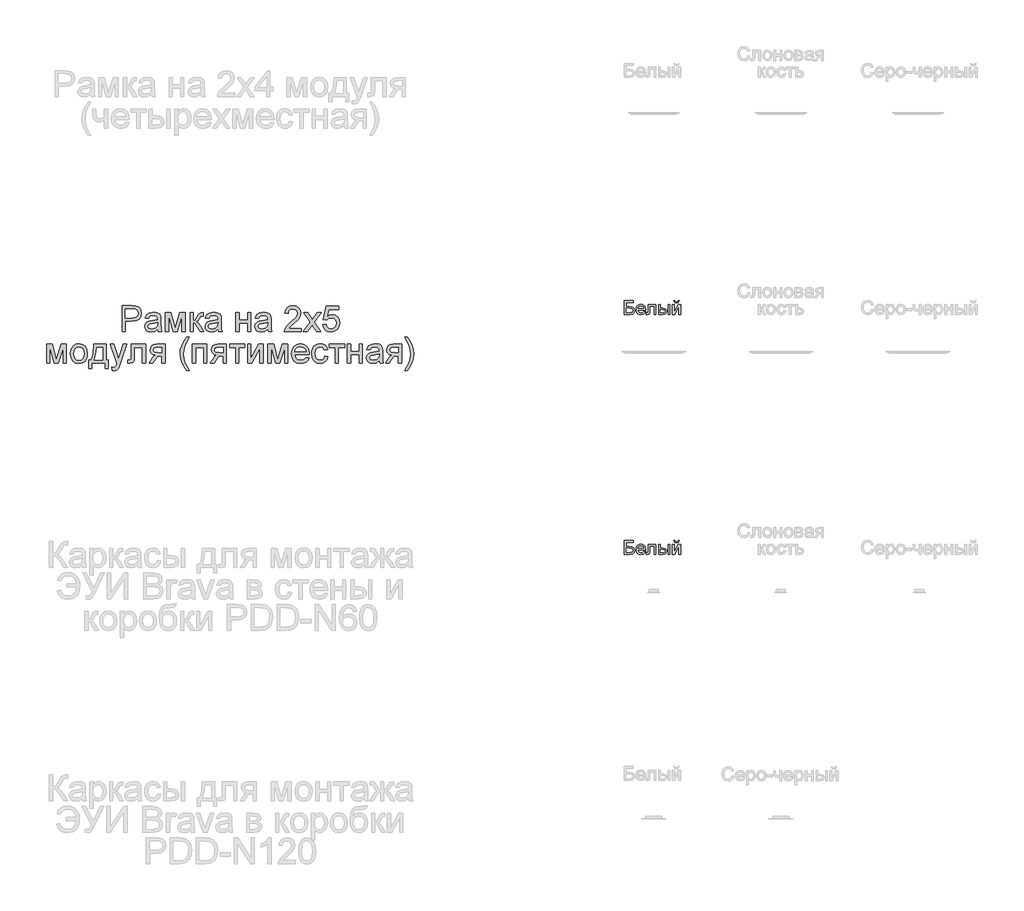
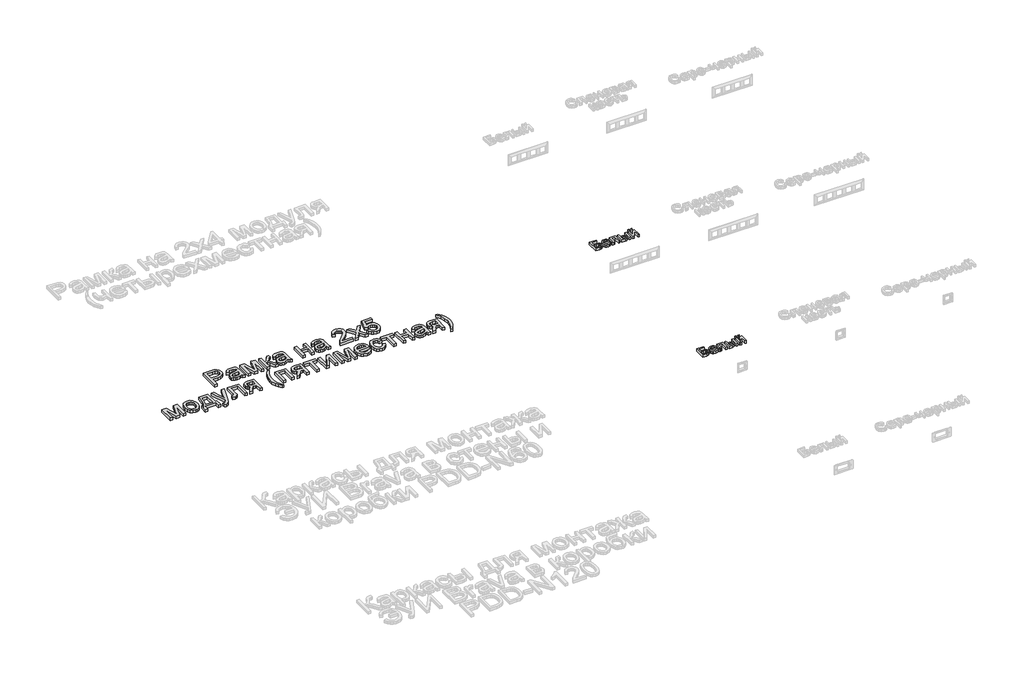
# One storey, part 17 of 47: 3 proxies.
"""IFC4 building model written with IfcOpenShell, lengths in millimetres."""

from ifc_helpers import new_model, si_unit, origin, origin_with_axes, place, context, project, spatial, polyline, outline, extrude, element, save

model = new_model("IFC4")

# Units and contexts
model_context = context("Model", 3, world=origin())
ifc_project = project(units=[si_unit("LENGTHUNIT", "METRE", prefix="MILLI")], contexts=[model_context])

# Site, building, storey
site = spatial("IfcSite", under=ifc_project)
building = spatial("IfcBuilding", under=site)
storey = spatial("IfcBuildingStorey", under=building, Name="Этаж 01", Elevation=0.0)

# Proxies
placement = place(None, origin())
element("IfcBuildingElementProxy", 1, Name="150 мм Arial", ObjectType="150 мм Arial", at=placement, inside=storey, context=model_context, shape_type="SweptSolid", body=[
    extrude(outline(polyline([(-3086.8258481, -2240.2273464), (-3086.8258481, -2089.5428812), (-3030.9813612, -2089.5428812), (-3008.4669831, -2090.977621), (-2990.1648539, -2098.0225612), (-2978.3006595, -2112.5906882), (-2973.8124992, -2133.1368976), (-2976.8429271, -2150.8964009), (-2985.9342109, -2165.6944542), (-3002.9349576, -2175.6824504), (-3029.6937742, -2179.0117824), (-3067.9902899, -2179.0117824), (-3067.9902899, -2240.2273464), (-3086.8258481, -2240.2273464)]), holes=[polyline([(-3067.9902899, -2160.1762243), (-3028.5901283, -2160.1762243), (-3011.8882857, -2158.4471789), (-3000.8518258, -2153.2600428), (-2994.6989995, -2144.9367126), (-2992.6480573, -2133.7990852), (-2997.4857056, -2118.2008886), (-3010.1960285, -2109.6660263), (-3029.0315867, -2108.3784394), (-3067.9902899, -2108.3784394), (-3067.9902899, -2160.1762243)])]), origin_with_axes(), (0.0, 0.0, 1.0), 20.0),
    extrude(outline(polyline([(-2879.6347084, -2226.1006778), (-2897.9000495, -2238.866183), (-2918.0783769, -2242.5817912), (-2933.8191278, -2240.3469081), (-2945.4304032, -2233.6422587), (-2952.5903066, -2223.4611245), (-2954.976941, -2210.7967868), (-2951.3716975, -2195.897566), (-2941.8987361, -2185.0818353), (-2928.7101666, -2178.9014178), (-2912.4129942, -2176.0687265), (-2879.745073, -2169.5940033), (-2879.6347084, -2165.4001486), (-2880.9314924, -2156.994045), (-2884.8218445, -2151.4942092), (-2893.5222537, -2147.410719), (-2905.6439655, -2146.0495557), (-2924.7002528, -2149.6731933), (-2933.7869381, -2162.530669), (-2952.6224963, -2160.1762243), (-2944.4739101, -2141.7821245), (-2928.0663731, -2131.0031821), (-2903.2159443, -2127.2139975), (-2880.3888665, -2130.5617237), (-2867.4946026, -2138.9678273), (-2861.7188552, -2151.7517266), (-2860.7991503, -2168.23284), (-2860.7991503, -2191.6669231), (-2859.8426571, -2224.3900265), (-2856.0902607, -2240.2273464), (-2874.9258189, -2240.2273464), (-2879.6347084, -2226.1006778)]), holes=[polyline([(-2879.6347084, -2188.4295615), (-2910.0217612, -2194.2053088), (-2926.2269631, -2197.2587294), (-2933.5662089, -2202.2251363), (-2936.1413829, -2209.4724116), (-2930.5311824, -2219.6627429), (-2914.0684632, -2223.746233), (-2895.0121758, -2219.2396786), (-2882.7249172, -2208.3319774), (-2879.745073, -2193.7638504), (-2879.6347084, -2188.4295615)])]), origin_with_axes(), (0.0, 0.0, 1.0), 20.0),
    extrude(outline(polyline([(-2834.9002578, -2129.5684423), (-2802.489854, -2129.5684423), (-2777.5106665, -2218.1544267), (-2750.5817045, -2129.5684423), (-2719.5324641, -2129.5684423), (-2719.5324641, -2240.2273464), (-2738.3680223, -2240.2273464), (-2738.3680223, -2151.1263272), (-2765.4441371, -2240.2273464), (-2790.1658072, -2240.2273464), (-2816.0646996, -2146.858896), (-2816.0646996, -2240.2273464), (-2834.9002578, -2240.2273464), (-2834.9002578, -2129.5684423)])), origin_with_axes(), (0.0, 0.0, 1.0), 20.0),
    extrude(outline(polyline([(-2691.2791269, -2129.5684423), (-2672.4435687, -2129.5684423), (-2672.4435687, -2176.6573377), (-2659.8252163, -2173.2728233), (-2649.4877322, -2153.5543484), (-2640.8976876, -2136.5398061), (-2633.3193185, -2131.0031821), (-2619.5421378, -2129.5684423), (-2615.9368943, -2129.5684423), (-2615.9368943, -2148.514365), (-2621.0136658, -2148.4040004), (-2630.2107157, -2150.3905632), (-2636.6854388, -2162.7881864), (-2644.282202, -2176.1974852), (-2654.9323858, -2182.7641788), (-2643.0497973, -2190.0942275), (-2631.3879381, -2205.5360743), (-2611.2280047, -2240.2273464), (-2632.6387368, -2240.2273464), (-2652.394, -2206.2718383), (-2662.3268139, -2191.9060464), (-2672.4435687, -2188.4295615), (-2672.4435687, -2240.2273464), (-2691.2791269, -2240.2273464), (-2691.2791269, -2129.5684423)])), origin_with_axes(), (0.0, 0.0, 1.0), 20.0),
    extrude(outline(polyline([(-2528.8224378, -2226.1006778), (-2547.0877789, -2238.866183), (-2567.2661063, -2242.5817912), (-2583.0068572, -2240.3469081), (-2594.6181326, -2233.6422587), (-2601.778036, -2223.4611245), (-2604.1646704, -2210.7967868), (-2600.5594269, -2195.897566), (-2591.0864655, -2185.0818353), (-2577.897896, -2178.9014178), (-2561.6007236, -2176.0687265), (-2528.9328024, -2169.5940033), (-2528.8224378, -2165.4001486), (-2530.1192218, -2156.994045), (-2534.0095739, -2151.4942092), (-2542.7099831, -2147.410719), (-2554.8316949, -2146.0495557), (-2573.8879822, -2149.6731933), (-2582.9746675, -2162.530669), (-2601.8102257, -2160.1762243), (-2593.6616395, -2141.7821245), (-2577.2541025, -2131.0031821), (-2552.4036737, -2127.2139975), (-2529.5765959, -2130.5617237), (-2516.682332, -2138.9678273), (-2510.9065846, -2151.7517266), (-2509.9868797, -2168.23284), (-2509.9868797, -2191.6669231), (-2509.0303865, -2224.3900265), (-2505.2779901, -2240.2273464), (-2524.1135483, -2240.2273464), (-2528.8224378, -2226.1006778)]), holes=[polyline([(-2528.8224378, -2188.4295615), (-2559.2094906, -2194.2053088), (-2575.4146925, -2197.2587294), (-2582.7539383, -2202.2251363), (-2585.3291123, -2209.4724116), (-2579.7189118, -2219.6627429), (-2563.2561926, -2223.746233), (-2544.1999052, -2219.2396786), (-2531.9126466, -2208.3319774), (-2528.9328024, -2193.7638504), (-2528.8224378, -2188.4295615)])]), origin_with_axes(), (0.0, 0.0, 1.0), 20.0),
    extrude(outline(polyline([(-2425.226868, -2129.5684423), (-2406.3913098, -2129.5684423), (-2406.3913098, -2171.9484481), (-2356.9479697, -2171.9484481), (-2356.9479697, -2129.5684423), (-2338.1124115, -2129.5684423), (-2338.1124115, -2240.2273464), (-2356.9479697, -2240.2273464), (-2356.9479697, -2190.7840063), (-2406.3913098, -2190.7840063), (-2406.3913098, -2240.2273464), (-2425.226868, -2240.2273464), (-2425.226868, -2129.5684423)])), origin_with_axes(), (0.0, 0.0, 1.0), 20.0),
    extrude(outline(polyline([(-2239.2257312, -2226.1006778), (-2257.4910723, -2238.866183), (-2277.6693997, -2242.5817912), (-2293.4101506, -2240.3469081), (-2305.021426, -2233.6422587), (-2312.1813294, -2223.4611245), (-2314.5679638, -2210.7967868), (-2310.9627203, -2195.897566), (-2301.4897589, -2185.0818353), (-2288.3011894, -2178.9014178), (-2272.004017, -2176.0687265), (-2239.3360958, -2169.5940033), (-2239.2257312, -2165.4001486), (-2240.5225152, -2156.994045), (-2244.4128673, -2151.4942092), (-2253.1132765, -2147.410719), (-2265.2349883, -2146.0495557), (-2284.2912756, -2149.6731933), (-2293.3779609, -2162.530669), (-2312.213519, -2160.1762243), (-2304.0649329, -2141.7821245), (-2287.6573959, -2131.0031821), (-2262.8069671, -2127.2139975), (-2239.9798893, -2130.5617237), (-2227.0856254, -2138.9678273), (-2221.309878, -2151.7517266), (-2220.3901731, -2168.23284), (-2220.3901731, -2191.6669231), (-2219.4336799, -2224.3900265), (-2215.6812835, -2240.2273464), (-2234.5168417, -2240.2273464), (-2239.2257312, -2226.1006778)]), holes=[polyline([(-2239.2257312, -2188.4295615), (-2269.612784, -2194.2053088), (-2285.8179859, -2197.2587294), (-2293.1572317, -2202.2251363), (-2295.7324057, -2209.4724116), (-2290.1222052, -2219.6627429), (-2273.659486, -2223.746233), (-2254.6031986, -2219.2396786), (-2242.31594, -2208.3319774), (-2239.3360958, -2193.7638504), (-2239.2257312, -2188.4295615)])]), origin_with_axes(), (0.0, 0.0, 1.0), 20.0),
    extrude(outline(polyline([(-2043.8068154, -2221.3917883), (-2043.8068154, -2240.2273464), (-2142.6934957, -2240.2273464), (-2140.6701447, -2227.241112), (-2129.2290146, -2207.2467256), (-2105.6477788, -2185.4129291), (-2073.1270104, -2154.032595), (-2067.0293663, -2143.2168643), (-2064.9968183, -2132.6954392), (-2066.9144032, -2123.2638646), (-2072.6671579, -2115.4233796), (-2081.5101213, -2110.1396744), (-2092.6983325, -2108.3784394), (-2104.4475637, -2110.0982877), (-2113.5756358, -2115.2578327), (-2119.4663462, -2123.4524041), (-2121.5034927, -2134.2773318), (-2140.3390509, -2131.922887), (-2135.7727156, -2113.7035312), (-2125.8996826, -2100.3954001), (-2111.2349866, -2092.2560109), (-2092.2936623, -2089.5428812), (-2073.2143824, -2092.5595136), (-2058.5772775, -2101.6094106), (-2049.2652645, -2115.129074), (-2046.1612601, -2131.555005), (-2049.5089863, -2149.4156759), (-2060.6374166, -2167.8833521), (-2087.621561, -2193.690274), (-2109.2898105, -2211.8084623), (-2117.7878846, -2221.3917883), (-2043.8068154, -2221.3917883)])), origin_with_axes(), (0.0, 0.0, 1.0), 20.0),
    extrude(outline(polyline([(-2032.0345915, -2240.2273464), (-1991.7883013, -2184.6035888), (-2029.6801468, -2129.5684423), (-2007.0186159, -2129.5684423), (-1988.7348807, -2156.0559459), (-1980.2000184, -2168.5639338), (-1972.8055903, -2158.3368143), (-1951.9834694, -2129.5684423), (-1929.3219385, -2129.5684423), (-1969.1267703, -2184.6035888), (-1930.7934664, -2240.2273464), (-1953.4549974, -2240.2273464), (-1976.5211985, -2206.7868731), (-1980.7518414, -2200.6800319), (-2009.3730606, -2240.2273464), (-2032.0345915, -2240.2273464)])), origin_with_axes(), (0.0, 0.0, 1.0), 20.0),
    extrude(outline(polyline([(-1919.0212426, -2200.2017853), (-1900.1856845, -2197.8473406), (-1896.7275937, -2209.1551134), (-1890.694329, -2217.2531158), (-1882.1134814, -2222.1229537), (-1871.0126422, -2223.746233), (-1857.511373, -2221.4883573), (-1847.3946181, -2214.7147301), (-1841.0762449, -2204.2071006), (-1838.9701205, -2190.7472181), (-1840.9428877, -2178.0736833), (-1846.8611893, -2168.3799928), (-1856.7710105, -2162.2271664), (-1870.7183366, -2160.1762243), (-1887.2546323, -2163.450374), (-1897.8312397, -2171.9484481), (-1916.6667978, -2169.5940033), (-1900.1856845, -2091.897326), (-1827.1978966, -2091.897326), (-1827.1978966, -2110.7328841), (-1884.9553699, -2110.7328841), (-1893.0119855, -2152.2299732), (-1879.5567016, -2144.0629929), (-1865.4576241, -2141.3406661), (-1847.8590692, -2144.7159834), (-1833.2495554, -2154.8419353), (-1823.4133106, -2170.274585), (-1820.1345623, -2189.5699957), (-1823.0868153, -2208.4055538), (-1831.9435743, -2224.5187852), (-1848.9029343, -2238.0660397), (-1871.0862186, -2242.5817912), (-1889.5860845, -2239.680122), (-1904.3243569, -2230.9751142), (-1914.4273162, -2217.4784435), (-1919.0212426, -2200.2017853)])), origin_with_axes(), (0.0, 0.0, 1.0), 20.0),
    extrude(outline(polyline([(-3525.9297975, -2312.530669), (-3493.5193938, -2312.530669), (-3468.5402063, -2401.1166535), (-3441.6112442, -2312.530669), (-3410.5620038, -2312.530669), (-3410.5620038, -2423.1895732), (-3429.397562, -2423.1895732), (-3429.397562, -2334.088554), (-3456.4736768, -2423.1895732), (-3481.1953469, -2423.1895732), (-3507.0942394, -2329.8211228), (-3507.0942394, -2423.1895732), (-3525.9297975, -2423.1895732), (-3525.9297975, -2312.530669)])), origin_with_axes(), (0.0, 0.0, 1.0), 20.0),
    extrude(outline(polyline([(-3387.0175562, -2367.8601211), (-3382.9432631, -2341.1794794), (-3370.7203838, -2322.4266947), (-3355.6188279, -2313.2388419), (-3337.5374278, -2310.1762243), (-3317.749975, -2313.905628), (-3301.9448448, -2325.0938392), (-3291.5843681, -2342.857941), (-3288.1308759, -2366.3150167), (-3289.6575861, -2385.3437129), (-3294.237717, -2399.8290665), (-3301.7379112, -2410.6769868), (-3312.0248114, -2418.7933833), (-3324.2430922, -2423.8563593), (-3337.5374278, -2425.544018), (-3357.5640039, -2421.8284098), (-3373.35074, -2410.6815854), (-3383.6008521, -2392.545003), (-3387.0175562, -2367.8601211)]), holes=[polyline([(-3368.181998, -2367.8233329), (-3366.0022972, -2384.8700649), (-3359.4631947, -2397.0147692), (-3349.6223513, -2404.2850372), (-3337.5374278, -2406.7084598), (-3325.5076866, -2404.2712416), (-3315.6852373, -2396.9595869), (-3309.1461348, -2384.6539342), (-3306.966434, -2367.2347217), (-3309.1599304, -2350.6846305), (-3315.7404196, -2338.705473), (-3325.5766644, -2331.4352051), (-3337.5374278, -2329.0117824), (-3349.6223513, -2331.426008), (-3359.4631947, -2338.6686848), (-3366.0022972, -2350.785798), (-3368.181998, -2367.8233329)])]), origin_with_axes(), (0.0, 0.0, 1.0), 20.0),
    extrude(outline(polyline([(-3250.4597595, -2312.530669), (-3179.8264165, -2312.530669), (-3179.8264165, -2404.354015), (-3165.6997479, -2404.354015), (-3165.6997479, -2453.7973552), (-3184.535306, -2453.7973552), (-3184.535306, -2423.1895732), (-3262.2319834, -2423.1895732), (-3262.2319834, -2453.7973552), (-3281.0675415, -2453.7973552), (-3281.0675415, -2404.354015), (-3269.2953177, -2404.354015), (-3260.7374628, -2388.8891757), (-3254.7455848, -2368.4303382), (-3250.4597595, -2312.530669)]), holes=[polyline([(-3233.9786462, -2331.3662272), (-3238.3932301, -2374.2796619), (-3248.1053148, -2404.354015), (-3198.6619746, -2404.354015), (-3198.6619746, -2331.3662272), (-3233.9786462, -2331.3662272)])]), origin_with_axes(), (0.0, 0.0, 1.0), 20.0),
    extrude(outline(polyline([(-3144.5097449, -2465.569579), (-3146.8641897, -2447.4329967), (-3137.2992578, -2449.0884657), (-3128.3597253, -2447.0099324), (-3122.8782836, -2441.215791), (-3117.7279357, -2427.3466397), (-3116.2564077, -2422.784903), (-3156.2819688, -2312.530669), (-3136.416341, -2312.530669), (-3115.1895499, -2373.9669622), (-3107.7951218, -2398.5414795), (-3100.4006937, -2376.8364418), (-3078.5852914, -2312.530669), (-3058.8668165, -2312.530669), (-3097.3840614, -2425.8383236), (-3107.3904516, -2450.4128408), (-3118.3165469, -2463.6933809), (-3132.9950385, -2467.9240238), (-3144.5097449, -2465.569579)])), origin_with_axes(), (0.0, 0.0, 1.0), 20.0),
    extrude(outline(polyline([(-3033.8508408, -2312.530669), (-2949.0908291, -2312.530669), (-2949.0908291, -2423.0792086), (-2967.9263873, -2423.0792086), (-2967.9263873, -2331.3662272), (-3015.0152826, -2331.3662272), (-3015.0152826, -2384.1572935), (-3016.2844755, -2408.5110816), (-3023.2558393, -2418.7933833), (-3039.7369527, -2423.1895732), (-3055.0408437, -2422.23308), (-3055.0408437, -2404.354015), (-3046.616346, -2404.354015), (-3038.0998778, -2403.1951868), (-3034.6969694, -2399.5163668), (-3033.8508408, -2383.0904357), (-3033.8508408, -2312.530669)])), origin_with_axes(), (0.0, 0.0, 1.0), 20.0),
    extrude(outline(polyline([(-2836.0774802, -2312.530669), (-2836.0774802, -2423.1895732), (-2854.9130383, -2423.1895732), (-2854.9130383, -2380.8095673), (-2865.176946, -2380.8095673), (-2879.1564618, -2383.2008003), (-2892.289849, -2399.2772435), (-2907.2994344, -2423.1895732), (-2929.0780486, -2423.1895732), (-2910.168914, -2392.9496732), (-2901.8179927, -2382.0971543), (-2894.129259, -2377.2779002), (-2907.0051289, -2373.3323658), (-2916.0550259, -2365.8367701), (-2921.407709, -2355.8671681), (-2923.1919366, -2344.4996144), (-2920.7547184, -2331.6053505), (-2913.4430638, -2321.3966251), (-2901.5144901, -2314.7471581), (-2885.2265147, -2312.530669), (-2836.0774802, -2312.530669)]), holes=[polyline([(-2854.9130383, -2331.3662272), (-2879.745073, -2331.3662272), (-2892.5703591, -2332.4560776), (-2899.849824, -2335.7256288), (-2904.3563785, -2345.9343542), (-2902.696311, -2353.1126516), (-2897.7161085, -2358.0928541), (-2874.1900549, -2361.9740092), (-2854.9130383, -2361.9740092), (-2854.9130383, -2331.3662272)])]), origin_with_axes(), (0.0, 0.0, 1.0), 20.0),
    extrude(outline(polyline([(-2711.2919074, -2465.569579), (-2725.8876256, -2445.087749), (-2738.0369285, -2421.3869514), (-2746.2314999, -2395.6168177), (-2748.9630237, -2368.9269789), (-2746.9212786, -2345.520487), (-2740.7960434, -2323.1256705), (-2728.6375435, -2297.7602069), (-2711.2919074, -2272.505108), (-2697.1652388, -2272.505108), (-2714.7867864, -2302.3403378), (-2725.3817878, -2331.2558626), (-2730.1274656, -2369.0373435), (-2728.0673264, -2393.184198), (-2721.8869089, -2417.3218554), (-2711.586213, -2441.4503157), (-2697.1652388, -2465.569579), (-2711.2919074, -2465.569579)])), origin_with_axes(), (0.0, 0.0, 1.0), 20.0),
    extrude(outline(polyline([(-2678.3296806, -2312.530669), (-2593.569669, -2312.530669), (-2593.569669, -2423.1895732), (-2612.4052271, -2423.1895732), (-2612.4052271, -2331.3662272), (-2659.4941225, -2331.3662272), (-2659.4941225, -2423.1895732), (-2678.3296806, -2423.1895732), (-2678.3296806, -2312.530669)])), origin_with_axes(), (0.0, 0.0, 1.0), 20.0),
    extrude(outline(polyline([(-2480.55632, -2312.530669), (-2480.55632, -2423.1895732), (-2499.3918782, -2423.1895732), (-2499.3918782, -2380.8095673), (-2509.6557859, -2380.8095673), (-2523.6353017, -2383.2008003), (-2536.7686889, -2399.2772435), (-2551.7782743, -2423.1895732), (-2573.5568884, -2423.1895732), (-2554.6477539, -2392.9496732), (-2546.2968326, -2382.0971543), (-2538.6080989, -2377.2779002), (-2551.4839687, -2373.3323658), (-2560.5338658, -2365.8367701), (-2565.8865488, -2355.8671681), (-2567.6707765, -2344.4996144), (-2565.2335583, -2331.6053505), (-2557.9219036, -2321.3966251), (-2545.9933299, -2314.7471581), (-2529.7053546, -2312.530669), (-2480.55632, -2312.530669)]), holes=[polyline([(-2499.3918782, -2331.3662272), (-2524.2239129, -2331.3662272), (-2537.0491989, -2332.4560776), (-2544.3286639, -2335.7256288), (-2548.8352183, -2345.9343542), (-2547.1751508, -2353.1126516), (-2542.1949483, -2358.0928541), (-2518.6688947, -2361.9740092), (-2499.3918782, -2361.9740092), (-2499.3918782, -2331.3662272)])]), origin_with_axes(), (0.0, 0.0, 1.0), 20.0),
    extrude(outline(polyline([(-2461.7207619, -2312.530669), (-2372.2518607, -2312.530669), (-2372.2518607, -2331.3662272), (-2407.5685322, -2331.3662272), (-2407.5685322, -2423.1895732), (-2426.4040904, -2423.1895732), (-2426.4040904, -2331.3662272), (-2461.7207619, -2331.3662272), (-2461.7207619, -2312.530669)])), origin_with_axes(), (0.0, 0.0, 1.0), 20.0),
    extrude(outline(polyline([(-2355.7707473, -2312.530669), (-2336.9351891, -2312.530669), (-2336.9351891, -2396.9227987), (-2290.6556341, -2312.530669), (-2266.3018461, -2312.530669), (-2266.3018461, -2423.1895732), (-2285.1374042, -2423.1895732), (-2285.1374042, -2339.3124783), (-2331.1226536, -2423.1895732), (-2355.7707473, -2423.1895732), (-2355.7707473, -2312.530669)])), origin_with_axes(), (0.0, 0.0, 1.0), 20.0),
    extrude(outline(polyline([(-2238.0485088, -2312.530669), (-2205.638105, -2312.530669), (-2180.6589176, -2401.1166535), (-2153.7299555, -2312.530669), (-2122.6807151, -2312.530669), (-2122.6807151, -2423.1895732), (-2141.5162733, -2423.1895732), (-2141.5162733, -2334.088554), (-2168.5923881, -2423.1895732), (-2193.3140582, -2423.1895732), (-2219.2129507, -2329.8211228), (-2219.2129507, -2423.1895732), (-2238.0485088, -2423.1895732), (-2238.0485088, -2312.530669)])), origin_with_axes(), (0.0, 0.0, 1.0), 20.0),
    extrude(outline(polyline([(-2016.9514297, -2390.2273464), (-1998.4837536, -2392.5817912), (-2005.1378192, -2406.4969277), (-2015.7558132, -2416.8987911), (-2030.0986125, -2423.3827112), (-2047.9270937, -2425.544018), (-2070.0276046, -2421.8146142), (-2087.0329498, -2410.6264031), (-2097.8762716, -2392.7059514), (-2101.4907122, -2368.7798261), (-2097.8394834, -2344.048959), (-2086.885797, -2325.5536917), (-2070.110378, -2314.0205911), (-2048.9939515, -2310.1762243), (-2028.535114, -2314.0113941), (-2012.1873579, -2325.5169035), (-2001.4681962, -2343.9753826), (-1997.8951424, -2368.6694615), (-1998.005507, -2373.746233), (-2082.6551541, -2373.746233), (-2079.3947999, -2387.8453105), (-2071.8210293, -2398.2103857), (-2060.8903355, -2404.5839413), (-2047.5592117, -2406.7084598), (-2029.0915356, -2402.7721225), (-2016.9514297, -2390.2273464)]), holes=[polyline([(-2082.6551541, -2354.9106749), (-2016.7307005, -2354.9106749), (-2019.2782833, -2344.9594669), (-2024.2722814, -2337.8409503), (-2035.253559, -2331.2190744), (-2049.0675279, -2329.0117824), (-2061.7640553, -2330.7730175), (-2072.2624877, -2336.0567226), (-2079.5603468, -2344.2926808), (-2082.6551541, -2354.9106749)])]), origin_with_axes(), (0.0, 0.0, 1.0), 20.0),
    extrude(outline(polyline([(-1908.4262411, -2383.1640121), (-1889.590683, -2385.5184569), (-1894.8421985, -2402.2708832), (-1904.710633, -2414.9306224), (-1918.2670845, -2422.8906691), (-1934.582651, -2425.544018), (-1954.6184242, -2421.8422054), (-1970.2855986, -2410.7367677), (-1980.397755, -2392.7151484), (-1983.7684738, -2368.2647913), (-1982.3291354, -2351.5031679), (-1978.0111205, -2336.9764276), (-1970.7454511, -2325.2455905), (-1960.4631494, -2316.8716766), (-1948.1620951, -2311.8500874), (-1934.8401684, -2310.1762243), (-1918.9246736, -2312.4754867), (-1906.2005551, -2319.3732742), (-1897.0724831, -2330.5017045), (-1891.9451278, -2345.4928958), (-1910.7806859, -2347.8473406), (-1919.5178833, -2333.7390661), (-1934.6930156, -2329.0117824), (-1946.8653111, -2331.338636), (-1956.526812, -2338.3191969), (-1962.8313897, -2350.330544), (-1964.9329156, -2367.7497565), (-1962.877375, -2385.4034938), (-1956.710753, -2397.4562276), (-1947.2239961, -2404.3954018), (-1935.2080504, -2406.7084598), (-1925.454579, -2405.264523), (-1917.4577441, -2400.9327125), (-1911.6406101, -2393.6026637), (-1908.4262411, -2383.1640121)])), origin_with_axes(), (0.0, 0.0, 1.0), 20.0),
    extrude(outline(polyline([(-1882.5273487, -2312.530669), (-1793.0584475, -2312.530669), (-1793.0584475, -2331.3662272), (-1828.375119, -2331.3662272), (-1828.375119, -2423.1895732), (-1847.2106771, -2423.1895732), (-1847.2106771, -2331.3662272), (-1882.5273487, -2331.3662272), (-1882.5273487, -2312.530669)])), origin_with_axes(), (0.0, 0.0, 1.0), 20.0),
    extrude(outline(polyline([(-1776.5773341, -2312.530669), (-1757.7417759, -2312.530669), (-1757.7417759, -2354.9106749), (-1708.2984358, -2354.9106749), (-1708.2984358, -2312.530669), (-1689.4628776, -2312.530669), (-1689.4628776, -2423.1895732), (-1708.2984358, -2423.1895732), (-1708.2984358, -2373.746233), (-1757.7417759, -2373.746233), (-1757.7417759, -2423.1895732), (-1776.5773341, -2423.1895732), (-1776.5773341, -2312.530669)])), origin_with_axes(), (0.0, 0.0, 1.0), 20.0),
    extrude(outline(polyline([(-1590.5761973, -2409.0629046), (-1608.8415384, -2421.8284098), (-1629.0198658, -2425.544018), (-1644.7606167, -2423.3091348), (-1656.3718921, -2416.6044855), (-1663.5317955, -2406.4233513), (-1665.9184299, -2393.7590136), (-1662.3131864, -2378.8597928), (-1652.840225, -2368.0440621), (-1639.6516555, -2361.8636446), (-1623.3544831, -2359.0309532), (-1590.6865619, -2352.5562301), (-1590.5761973, -2348.3623754), (-1591.8729813, -2339.9562718), (-1595.7633334, -2334.456436), (-1604.4637426, -2330.3729458), (-1616.5854544, -2329.0117824), (-1635.6417417, -2332.6354201), (-1644.728427, -2345.4928958), (-1663.5639852, -2343.138451), (-1655.415399, -2324.7443513), (-1639.007862, -2313.9654088), (-1614.1574332, -2310.1762243), (-1591.3303554, -2313.5239504), (-1578.4360915, -2321.930054), (-1572.6603441, -2334.7139534), (-1571.7406392, -2351.1950667), (-1571.7406392, -2374.6291498), (-1570.784146, -2407.3522533), (-1567.0317496, -2423.1895732), (-1585.8673078, -2423.1895732), (-1590.5761973, -2409.0629046)]), holes=[polyline([(-1590.5761973, -2371.3917883), (-1620.9632501, -2377.1675356), (-1637.168452, -2380.2209562), (-1644.5076978, -2385.1873631), (-1647.0828718, -2392.4346384), (-1641.4726713, -2402.6249697), (-1625.0099521, -2406.7084598), (-1605.9536647, -2402.2019054), (-1593.6664061, -2391.2942042), (-1590.6865619, -2376.7260772), (-1590.5761973, -2371.3917883)])]), origin_with_axes(), (0.0, 0.0, 1.0), 20.0),
    extrude(outline(polyline([(-1461.081735, -2312.530669), (-1461.081735, -2423.1895732), (-1479.9172932, -2423.1895732), (-1479.9172932, -2380.8095673), (-1490.1812008, -2380.8095673), (-1504.1607166, -2383.2008003), (-1517.2941039, -2399.2772435), (-1532.3036893, -2423.1895732), (-1554.0823034, -2423.1895732), (-1535.1731688, -2392.9496732), (-1526.8222475, -2382.0971543), (-1519.1335138, -2377.2779002), (-1532.0093837, -2373.3323658), (-1541.0592808, -2365.8367701), (-1546.4119638, -2355.8671681), (-1548.1961915, -2344.4996144), (-1545.7589732, -2331.6053505), (-1538.4473186, -2321.3966251), (-1526.5187449, -2314.7471581), (-1510.2307696, -2312.530669), (-1461.081735, -2312.530669)]), holes=[polyline([(-1479.9172932, -2331.3662272), (-1504.7493278, -2331.3662272), (-1517.5746139, -2332.4560776), (-1524.8540789, -2335.7256288), (-1529.3606333, -2345.9343542), (-1527.7005658, -2353.1126516), (-1522.7203633, -2358.0928541), (-1499.1943097, -2361.9740092), (-1479.9172932, -2361.9740092), (-1479.9172932, -2331.3662272)])]), origin_with_axes(), (0.0, 0.0, 1.0), 20.0),
    extrude(outline(polyline([(-1428.1195082, -2465.569579), (-1442.2461769, -2465.569579), (-1427.8252026, -2441.4503157), (-1417.5245068, -2417.3218554), (-1411.3440893, -2393.184198), (-1409.2839501, -2369.0373435), (-1414.0296278, -2331.5869564), (-1424.5142647, -2302.6346434), (-1442.2461769, -2272.505108), (-1428.1195082, -2272.505108), (-1410.7738722, -2297.7602069), (-1398.6153722, -2323.1256705), (-1392.490137, -2345.520487), (-1390.4483919, -2368.9269789), (-1393.1937113, -2395.6168177), (-1401.4296695, -2421.3869514), (-1413.592768, -2445.087749), (-1428.1195082, -2465.569579)])), origin_with_axes(), (0.0, 0.0, 1.0), 20.0),
])
element("IfcBuildingElementProxy", 2, Name="80 мм Arial", ObjectType="80 мм Arial", at=placement, inside=storey, context=model_context, shape_type="SweptSolid", body=[
    extrude(outline(polyline([(-164.9738634, -2059.7372695), (-114.7457083, -2059.7372695), (-114.7457083, -2069.7829005), (-154.9282324, -2069.7829005), (-154.9282324, -2093.6412742), (-136.1122946, -2093.6412742), (-119.5330794, -2095.681793), (-109.6640317, -2103.3925996), (-105.9557812, -2116.5774903), (-108.5947214, -2128.025978), (-116.4723012, -2136.7276135), (-134.3072203, -2140.1023176), (-164.9738634, -2140.1023176), (-164.9738634, -2059.7372695)]), holes=[polyline([(-154.9282324, -2130.0566866), (-133.4046831, -2130.0566866), (-120.357135, -2126.7408436), (-116.0014122, -2116.7933144), (-118.4931996, -2108.9255448), (-125.4290015, -2104.726785), (-140.5661193, -2103.6869052), (-154.9282324, -2103.6869052), (-154.9282324, -2130.0566866)])]), origin_with_axes(), (0.0, 0.0, 1.0), 20.0),
    extrude(outline(polyline([(-52.0782367, -2122.5224633), (-42.2288094, -2123.7781672), (-51.4405746, -2136.7472338), (-68.5985909, -2141.3580215), (-80.38553, -2139.3690062), (-89.4550474, -2133.4019602), (-95.2381524, -2123.844386), (-97.1658541, -2111.0837858), (-95.218532, -2097.89399), (-89.3765659, -2088.0298475), (-80.4296758, -2081.8788605), (-69.1675817, -2079.8285315), (-58.2562017, -2081.8739554), (-49.5373984, -2088.0102271), (-43.8205122, -2097.8547493), (-41.9148835, -2111.0249247), (-41.9737446, -2113.7325362), (-87.120223, -2113.7325362), (-81.3420232, -2126.7800843), (-68.4023871, -2131.3123905), (-58.5529598, -2129.2130106), (-52.0782367, -2122.5224633)]), holes=[polyline([(-87.120223, -2103.6869052), (-51.9605145, -2103.6869052), (-55.982691, -2094.5830521), (-69.2068224, -2089.8741625), (-81.5774676, -2093.631464), (-87.120223, -2103.6869052)])]), origin_with_axes(), (0.0, 0.0, 1.0), 20.0),
    extrude(outline(polyline([(-26.8464369, -2081.0842354), (18.3589026, -2081.0842354), (18.3589026, -2140.0434565), (8.3132716, -2140.0434565), (8.3132716, -2091.1298664), (-16.8008059, -2091.1298664), (-16.8008059, -2119.2851018), (-17.4777088, -2132.2737888), (-21.1957695, -2137.757683), (-29.9856966, -2140.1023176), (-38.1477718, -2139.5921879), (-38.1477718, -2130.0566866), (-33.6547064, -2130.0566866), (-29.11259, -2129.4386449), (-27.2977055, -2127.4766075), (-26.8464369, -2118.716111), (-26.8464369, -2081.0842354)])), origin_with_axes(), (0.0, 0.0, 1.0), 20.0),
    extrude(outline(polyline([(33.4273491, -2081.0842354), (43.4729802, -2081.0842354), (43.4729802, -2102.4312013), (55.8926763, -2102.4312013), (74.5810817, -2107.463827), (79.5033428, -2113.4504933), (81.1440965, -2121.345241), (75.6405818, -2134.598803), (68.4914084, -2138.726439), (58.0509174, -2140.1023176), (33.4273491, -2140.1023176), (33.4273491, -2081.0842354)]), holes=[polyline([(43.4729802, -2130.0566866), (53.7932964, -2130.0566866), (67.1155297, -2127.9474965), (71.0984654, -2121.3648613), (68.1455993, -2115.1844438), (55.1078614, -2112.4768323), (43.4729802, -2112.4768323), (43.4729802, -2130.0566866)])]), origin_with_axes(), (0.0, 0.0, 1.0), 20.0),
    extrude(outline(polyline([(88.6783197, -2081.0842354), (98.7239507, -2081.0842354), (98.7239507, -2140.1023176), (88.6783197, -2140.1023176), (88.6783197, -2081.0842354)])), origin_with_axes(), (0.0, 0.0, 1.0), 20.0),
    extrude(outline(polyline([(113.7923973, -2081.0842354), (123.8380283, -2081.0842354), (123.8380283, -2126.0933712), (148.5204576, -2081.0842354), (161.5091446, -2081.0842354), (161.5091446, -2140.1023176), (151.4635136, -2140.1023176), (151.4635136, -2095.367867), (126.9380472, -2140.1023176), (113.7923973, -2140.1023176), (113.7923973, -2081.0842354)])), origin_with_axes(), (0.0, 0.0, 1.0), 20.0),
    extrude(outline(polyline([(146.4406981, -2059.7372695), (153.9749213, -2059.7372695), (149.0992586, -2070.911072), (138.2786229, -2074.805716), (126.5652601, -2070.9405025), (121.3266205, -2059.7372695), (128.8608438, -2059.7372695), (131.6861775, -2065.3977471), (137.3760857, -2067.2714928), (143.6153643, -2065.4566083), (146.4406981, -2059.7372695)])), origin_with_axes(), (0.0, 0.0, 1.0), 20.0),
])
element("IfcBuildingElementProxy", 3, Name="80 мм Arial", ObjectType="80 мм Arial", at=placement, inside=storey, context=model_context, shape_type="SweptSolid", body=[
    extrude(outline(polyline([(-164.9738634, -3455.5517715), (-114.7457083, -3455.5517715), (-114.7457083, -3465.5974025), (-154.9282324, -3465.5974025), (-154.9282324, -3489.4557762), (-136.1122946, -3489.4557762), (-119.5330794, -3491.496295), (-109.6640317, -3499.2071016), (-105.9557812, -3512.3919923), (-108.5947214, -3523.84048), (-116.4723012, -3532.5421154), (-134.3072203, -3535.9168196), (-164.9738634, -3535.9168196), (-164.9738634, -3455.5517715)]), holes=[polyline([(-154.9282324, -3525.8711886), (-133.4046831, -3525.8711886), (-120.357135, -3522.5553456), (-116.0014122, -3512.6078164), (-118.4931996, -3504.7400468), (-125.4290015, -3500.541287), (-140.5661193, -3499.5014072), (-154.9282324, -3499.5014072), (-154.9282324, -3525.8711886)])]), origin_with_axes(), (0.0, 0.0, 1.0), 20.0),
    extrude(outline(polyline([(-52.0782367, -3518.3369653), (-42.2288094, -3519.5926692), (-51.4405746, -3532.5617358), (-68.5985909, -3537.1725235), (-80.38553, -3535.1835082), (-89.4550474, -3529.2164622), (-95.2381524, -3519.658888), (-97.1658541, -3506.8982878), (-95.218532, -3493.708492), (-89.3765659, -3483.8443495), (-80.4296758, -3477.6933625), (-69.1675817, -3475.6430335), (-58.2562017, -3477.6884574), (-49.5373984, -3483.8247291), (-43.8205122, -3493.6692513), (-41.9148835, -3506.8394267), (-41.9737446, -3509.5470382), (-87.120223, -3509.5470382), (-81.3420232, -3522.5945863), (-68.4023871, -3527.1268925), (-58.5529598, -3525.0275126), (-52.0782367, -3518.3369653)]), holes=[polyline([(-87.120223, -3499.5014072), (-51.9605145, -3499.5014072), (-55.982691, -3490.3975541), (-69.2068224, -3485.6886645), (-81.5774676, -3489.445966), (-87.120223, -3499.5014072)])]), origin_with_axes(), (0.0, 0.0, 1.0), 20.0),
    extrude(outline(polyline([(-26.8464369, -3476.8987374), (18.3589026, -3476.8987374), (18.3589026, -3535.8579585), (8.3132716, -3535.8579585), (8.3132716, -3486.9443684), (-16.8008059, -3486.9443684), (-16.8008059, -3515.0996038), (-17.4777088, -3528.0882908), (-21.1957695, -3533.572185), (-29.9856966, -3535.9168196), (-38.1477718, -3535.4066899), (-38.1477718, -3525.8711886), (-33.6547064, -3525.8711886), (-29.11259, -3525.2531468), (-27.2977055, -3523.2911095), (-26.8464369, -3514.530613), (-26.8464369, -3476.8987374)])), origin_with_axes(), (0.0, 0.0, 1.0), 20.0),
    extrude(outline(polyline([(33.4273491, -3476.8987374), (43.4729802, -3476.8987374), (43.4729802, -3498.2457033), (55.8926763, -3498.2457033), (74.5810817, -3503.278329), (79.5033428, -3509.2649953), (81.1440965, -3517.159743), (75.6405818, -3530.413305), (68.4914084, -3534.540941), (58.0509174, -3535.9168196), (33.4273491, -3535.9168196), (33.4273491, -3476.8987374)]), holes=[polyline([(43.4729802, -3525.8711886), (53.7932964, -3525.8711886), (67.1155297, -3523.7619985), (71.0984654, -3517.1793633), (68.1455993, -3510.9989458), (55.1078614, -3508.2913343), (43.4729802, -3508.2913343), (43.4729802, -3525.8711886)])]), origin_with_axes(), (0.0, 0.0, 1.0), 20.0),
    extrude(outline(polyline([(88.6783197, -3476.8987374), (98.7239507, -3476.8987374), (98.7239507, -3535.9168196), (88.6783197, -3535.9168196), (88.6783197, -3476.8987374)])), origin_with_axes(), (0.0, 0.0, 1.0), 20.0),
    extrude(outline(polyline([(113.7923973, -3476.8987374), (123.8380283, -3476.8987374), (123.8380283, -3521.9078732), (148.5204576, -3476.8987374), (161.5091446, -3476.8987374), (161.5091446, -3535.9168196), (151.4635136, -3535.9168196), (151.4635136, -3491.182369), (126.9380472, -3535.9168196), (113.7923973, -3535.9168196), (113.7923973, -3476.8987374)])), origin_with_axes(), (0.0, 0.0, 1.0), 20.0),
    extrude(outline(polyline([(146.4406981, -3455.5517715), (153.9749213, -3455.5517715), (149.0992586, -3466.725574), (138.2786229, -3470.620218), (126.5652601, -3466.7550045), (121.3266205, -3455.5517715), (128.8608438, -3455.5517715), (131.6861775, -3461.2122491), (137.3760857, -3463.0859948), (143.6153643, -3461.2711102), (146.4406981, -3455.5517715)])), origin_with_axes(), (0.0, 0.0, 1.0), 20.0),
])

save(model, "model.ifc")
